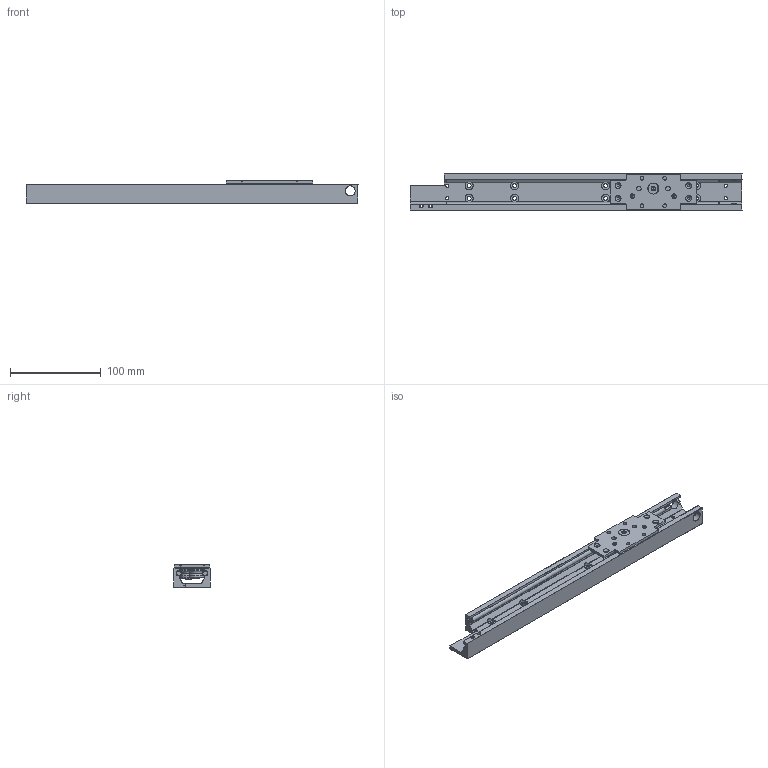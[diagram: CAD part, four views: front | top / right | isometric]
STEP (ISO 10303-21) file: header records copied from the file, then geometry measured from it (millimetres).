
FILE_DESCRIPTION((''),'1');
FILE_NAME('H:/図庫/国内ﾕﾆｯﾄ/ﾌﾙﾗｲﾄﾞ/ホームページ用ＣＡＤ図面/最新/3D/40SW0365S_HP.stp','2016-11-30T07:45:27',(''),(''),'Spatial Interop R21 SP3','Kubotek KeyCreator 2011 V10.0.2 (22737)',' ');
FILE_SCHEMA(('automotive_design'));
Length unit declared in the file: millimetre
Products named in the file (169): Unnamed[1]
Bounding box: 365 x 40 x 25.03 mm (x, y, z)
Surface area: 81129 mm2 (no closed solid volume)
Topology: 0 solids, 328 shells, 328 faces, 1495 edges, 1386 vertices
Faces by surface type: cylinder 150, plane 116, cone 37, bspline 19, torus 6
Full cylindrical faces by diameter (mm): 3 x3, 3.1 x4, 3.3 x2, 3.5 x4, 4 x4, 4.2 x8, 5 x5, 6 x4, 6.03 x2, 7 x3, 7.8 x3, 9 x8, 10 x3, 11 x4, 13 x1, 17 x4, 19.9 x2
Entity records: 25901 total; most frequent: CARTESIAN_POINT 6186, DIRECTION 2606, ORIENTED_EDGE 1370, EDGE_CURVE 1370, VERTEX_POINT 1370, AXIS2_PLACEMENT_3D 1106, PRESENTATION_STYLE_ASSIGNMENT 994, COLOUR_RGB 994
